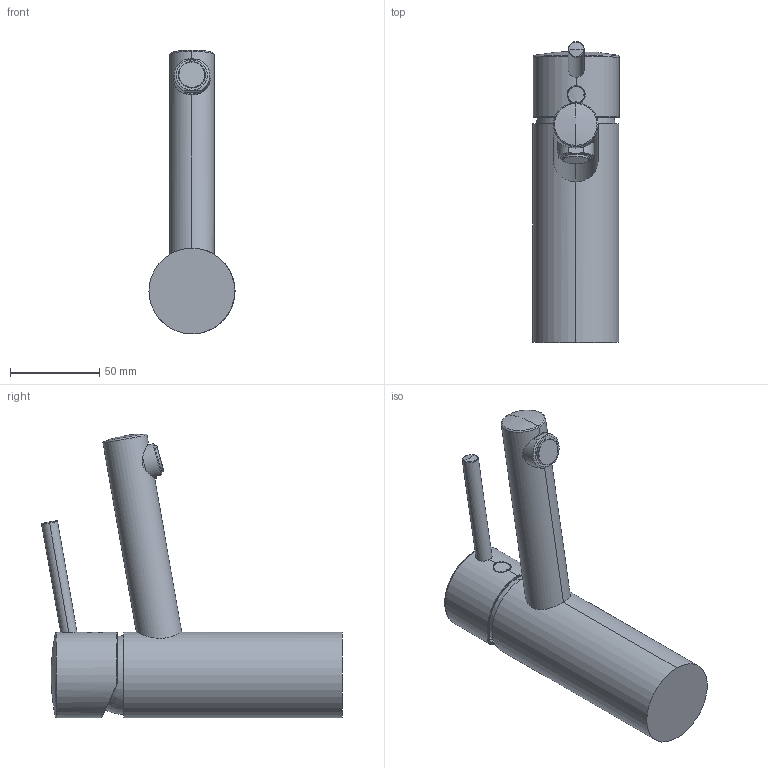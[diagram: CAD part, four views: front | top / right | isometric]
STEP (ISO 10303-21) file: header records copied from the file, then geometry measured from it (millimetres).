
FILE_DESCRIPTION((''),'2;1');
FILE_NAME('14747--71_SW0002','2026-09-10T10:19:04',('simi1'),(''),'CREO PARAMETRIC BY PTC INC, 2022244','CREO PARAMETRIC BY PTC INC, 2022244','');
FILE_SCHEMA(('CONFIG_CONTROL_DESIGN'));
Length unit declared in the file: millimetre
Products named in the file (1): 14747--71_SW0002
Bounding box: 48.2 x 168.33 x 158.89 mm (x, y, z)
Surface area: 51968.3 mm2 (no closed solid volume)
Topology: 0 solids, 18 shells, 256 faces, 849 edges, 587 vertices
Faces by surface type: bspline 83, cylinder 59, plane 41, torus 34, sphere 27, cone 12
Entity records: 13793 total; most frequent: CARTESIAN_POINT 6926, DIRECTION 1457, ORIENTED_EDGE 1339, EDGE_CURVE 843, AXIS2_PLACEMENT_3D 653, VERTEX_POINT 587, CIRCLE 480, EDGE_LOOP 256
